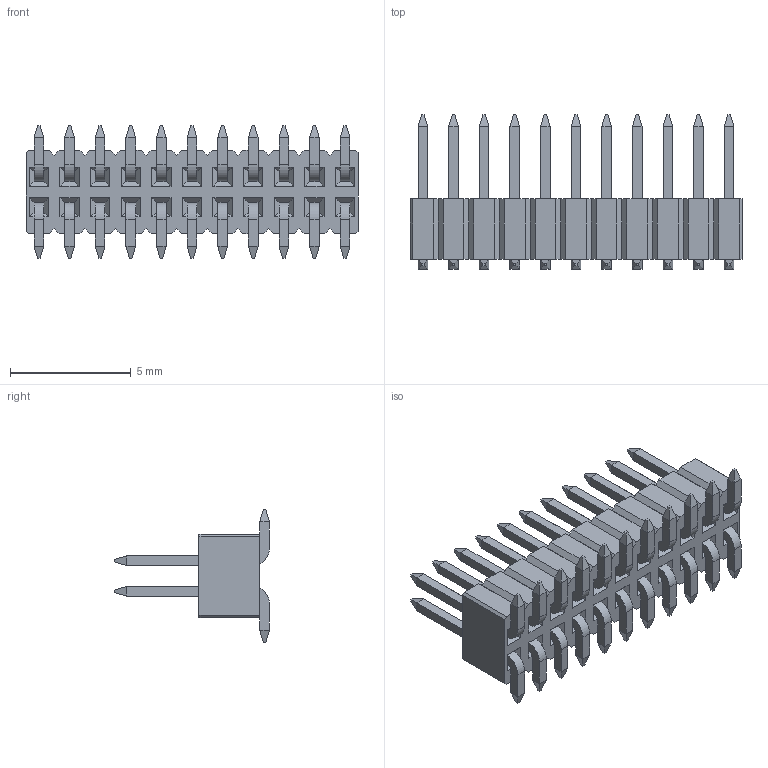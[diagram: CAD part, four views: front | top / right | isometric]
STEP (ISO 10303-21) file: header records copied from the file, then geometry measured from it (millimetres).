
FILE_DESCRIPTION (( 'STEP AP203' ), '1' );
FILE_NAME ('2215-2X11G00DN-3.5B-H2.5-1110329.STEP', '2022-03-29T09:39:35', ( '' ), ( '' ), 'SwSTEP 2.0', 'SolidWorks 2019', '' );
FILE_SCHEMA (( 'CONFIG_CONTROL_DESIGN' ));
Length unit declared in the file: millimetre
Products named in the file (2): 2215-2X11G00DN-3.5B-H2.5-1110329
Assembly tree (1 placements, depth 2):
  2215-2X11G00DN-3.5B-H2.5-1110329
    2215-2X11G00DN-3.5B-H2.5-1110329
Bounding box: 13.77 x 6.42 x 5.5 mm (x, y, z)
Volume: 133.4 mm3; surface area: 376.3 mm2
Topology: 1 solids, 1 shells, 686 faces, 1788 edges, 1104 vertices
Faces by surface type: plane 620, cylinder 66
Entity records: 20680 total; most frequent: CARTESIAN_POINT 3582, ORIENTED_EDGE 3576, DIRECTION 3344, EDGE_CURVE 1788, VECTOR 1612, LINE 1612, VERTEX_POINT 1104, AXIS2_PLACEMENT_3D 866
